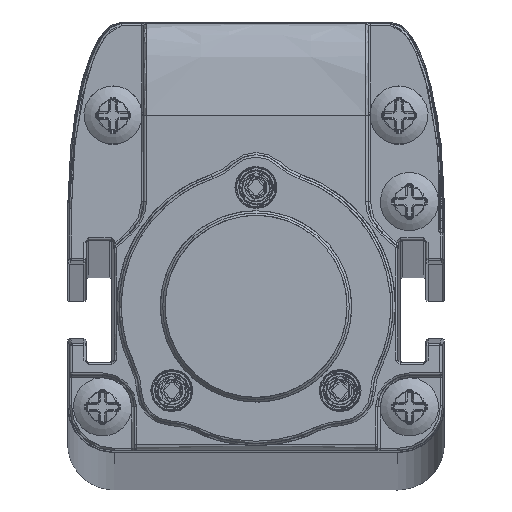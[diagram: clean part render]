
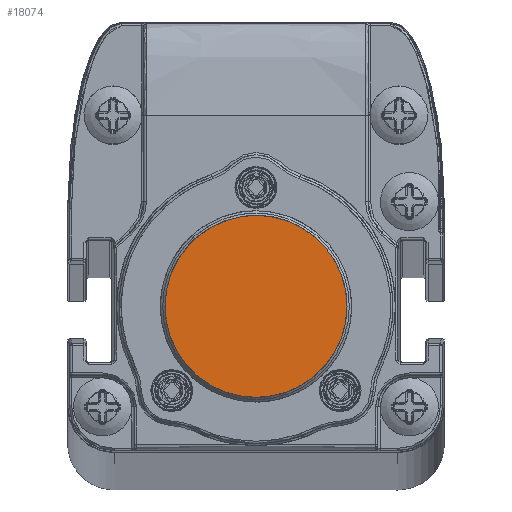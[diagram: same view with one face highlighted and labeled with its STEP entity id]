
A CAD part, top view. The second image highlights one B-rep face of the part: STEP entity #18074.
In plain terms, the highlighted planar face has unit normal (0, 0, 1).
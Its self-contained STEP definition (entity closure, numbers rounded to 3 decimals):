
#15250=B_SPLINE_CURVE_WITH_KNOTS('',3,(#63544,#63545,#63546,#63547,#63548,
#63549,#63550,#63551,#63552,#63553,#63554,#63555,#63556,#63557,#63558,#63559,
#63560,#63561,#63562,#63563,#63564,#63565,#63566,#63567,#63568,#63569,#63570,
#63571,#63572,#63573,#63574,#63575,#63576,#63577,#63578,#63579,#63580,#63581,
#63582,#63583,#63584,#63585,#63586,#63587,#63588,#63589,#63590,#63591,#63592,
#63593,#63594,#63595,#63596,#63597,#63598,#63599,#63600,#63601,#63602,#63603,
#63604,#63605,#63606,#63607,#63608,#63609,#63610,#63611,#63612,#63613,#63614,
#63615,#63616,#63617,#63618,#63619,#63620,#63621,#63622,#63623,#63624,#63625,
#63626,#63627,#63628,#63629,#63630,#63631,#63632,#63633,#63634,#63635,#63636,
#63637,#63638,#63639,#63640,#63641,#63642,#63643,#63644,#63645,#63646),
 .UNSPECIFIED.,.T.,.F.,(1,3,3,3,3,3,3,3,3,3,3,3,3,3,3,3,3,3,3,3,3,3,3,3,
3,3,3,3,3,3,3,3,3,3,3,3,1),(-0.029,0.,0.029,0.059,
0.088,0.118,0.147,0.176,
0.206,0.235,0.265,0.294,
0.324,0.353,0.382,0.412,
0.441,0.471,0.5,0.529,0.559,
0.588,0.618,0.647,0.676,
0.706,0.735,0.765,0.794,
0.824,0.853,0.882,0.912,
0.941,0.971,1.,1.029),.UNSPECIFIED.);
#18074=ADVANCED_FACE('',(#20077),#18972,.T.);
#18972=PLANE('',#43531);
#20077=FACE_OUTER_BOUND('',#21561,.T.);
#21561=EDGE_LOOP('',(#27910));
#27910=ORIENTED_EDGE('',*,*,#36889,.T.);
#31950=VERTEX_POINT('',#63647);
#36889=EDGE_CURVE('',#31950,#31950,#15250,.T.);
#43531=AXIS2_PLACEMENT_3D('',#63648,#47487,#47488);
#47487=DIRECTION('',(0.,0.,1.));
#47488=DIRECTION('',(1.,0.,0.));
#63544=CARTESIAN_POINT('',(7.8,0.,1883.34));
#63545=CARTESIAN_POINT('',(7.8,0.465,1883.34));
#63546=CARTESIAN_POINT('',(7.759,0.925,1883.34));
#63547=CARTESIAN_POINT('',(7.679,1.376,1883.34));
#63548=CARTESIAN_POINT('',(7.638,1.601,1883.34));
#63549=CARTESIAN_POINT('',(7.588,1.825,1883.34));
#63550=CARTESIAN_POINT('',(7.527,2.047,1883.34));
#63551=CARTESIAN_POINT('',(7.466,2.269,1883.34));
#63552=CARTESIAN_POINT('',(7.407,2.458,1883.34));
#63553=CARTESIAN_POINT('',(7.315,2.708,1883.34));
#63554=CARTESIAN_POINT('',(7.129,3.209,1883.34));
#63555=CARTESIAN_POINT('',(6.898,3.683,1883.34));
#63556=CARTESIAN_POINT('',(6.62,4.128,1883.34));
#63557=CARTESIAN_POINT('',(6.343,4.573,1883.34));
#63558=CARTESIAN_POINT('',(6.043,4.965,1883.34));
#63559=CARTESIAN_POINT('',(5.651,5.376,1883.34));
#63560=CARTESIAN_POINT('',(4.868,6.2,1883.34));
#63561=CARTESIAN_POINT('',(3.912,6.837,1883.34));
#63562=CARTESIAN_POINT('',(2.89,7.245,1883.34));
#63563=CARTESIAN_POINT('',(2.378,7.449,1883.34));
#63564=CARTESIAN_POINT('',(1.856,7.597,1883.34));
#63565=CARTESIAN_POINT('',(1.324,7.689,1883.34));
#63566=CARTESIAN_POINT('',(1.058,7.734,1883.34));
#63567=CARTESIAN_POINT('',(0.79,7.766,1883.34));
#63568=CARTESIAN_POINT('',(0.52,7.784,1883.34));
#63569=CARTESIAN_POINT('',(0.249,7.801,1883.34));
#63570=CARTESIAN_POINT('',(-0.055,7.804,1883.34));
#63571=CARTESIAN_POINT('',(-0.3,7.794,1883.34));
#63572=CARTESIAN_POINT('',(-0.79,7.775,1883.34));
#63573=CARTESIAN_POINT('',(-1.271,7.712,1883.34));
#63574=CARTESIAN_POINT('',(-1.742,7.604,1883.34));
#63575=CARTESIAN_POINT('',(-2.213,7.496,1883.34));
#63576=CARTESIAN_POINT('',(-2.713,7.327,1883.34));
#63577=CARTESIAN_POINT('',(-3.123,7.147,1883.34));
#63578=CARTESIAN_POINT('',(-3.534,6.968,1883.34));
#63579=CARTESIAN_POINT('',(-3.924,6.757,1883.34));
#63580=CARTESIAN_POINT('',(-4.293,6.513,1883.34));
#63581=CARTESIAN_POINT('',(-4.477,6.392,1883.34));
#63582=CARTESIAN_POINT('',(-4.656,6.262,1883.34));
#63583=CARTESIAN_POINT('',(-4.83,6.125,1883.34));
#63584=CARTESIAN_POINT('',(-5.004,5.987,1883.34));
#63585=CARTESIAN_POINT('',(-5.15,5.864,1883.34));
#63586=CARTESIAN_POINT('',(-5.337,5.688,1883.34));
#63587=CARTESIAN_POINT('',(-5.712,5.337,1883.34));
#63588=CARTESIAN_POINT('',(-6.047,4.956,1883.34));
#63589=CARTESIAN_POINT('',(-6.341,4.545,1883.34));
#63590=CARTESIAN_POINT('',(-6.635,4.134,1883.34));
#63591=CARTESIAN_POINT('',(-6.869,3.738,1883.34));
#63592=CARTESIAN_POINT('',(-7.102,3.226,1883.34));
#63593=CARTESIAN_POINT('',(-7.567,2.203,1883.34));
#63594=CARTESIAN_POINT('',(-7.8,1.124,1883.34));
#63595=CARTESIAN_POINT('',(-7.8,0.,1883.34));
#63596=CARTESIAN_POINT('',(-7.8,-0.562,1883.34));
#63597=CARTESIAN_POINT('',(-7.742,-1.113,1883.34));
#63598=CARTESIAN_POINT('',(-7.626,-1.651,1883.34));
#63599=CARTESIAN_POINT('',(-7.509,-2.189,1883.34));
#63600=CARTESIAN_POINT('',(-7.314,-2.758,1883.34));
#63601=CARTESIAN_POINT('',(-7.102,-3.226,1883.34));
#63602=CARTESIAN_POINT('',(-6.889,-3.694,1883.34));
#63603=CARTESIAN_POINT('',(-6.636,-4.134,1883.34));
#63604=CARTESIAN_POINT('',(-6.341,-4.544,1883.34));
#63605=CARTESIAN_POINT('',(-6.194,-4.75,1883.34));
#63606=CARTESIAN_POINT('',(-6.037,-4.947,1883.34));
#63607=CARTESIAN_POINT('',(-5.87,-5.138,1883.34));
#63608=CARTESIAN_POINT('',(-5.702,-5.329,1883.34));
#63609=CARTESIAN_POINT('',(-5.5,-5.535,1883.34));
#63610=CARTESIAN_POINT('',(-5.337,-5.688,1883.34));
#63611=CARTESIAN_POINT('',(-5.01,-5.995,1883.34));
#63612=CARTESIAN_POINT('',(-4.662,-6.27,1883.34));
#63613=CARTESIAN_POINT('',(-4.293,-6.513,1883.34));
#63614=CARTESIAN_POINT('',(-3.924,-6.756,1883.34));
#63615=CARTESIAN_POINT('',(-3.573,-6.951,1883.34));
#63616=CARTESIAN_POINT('',(-3.123,-7.147,1883.34));
#63617=CARTESIAN_POINT('',(-2.674,-7.344,1883.34));
#63618=CARTESIAN_POINT('',(-2.213,-7.496,1883.34));
#63619=CARTESIAN_POINT('',(-1.743,-7.604,1883.34));
#63620=CARTESIAN_POINT('',(-1.507,-7.658,1883.34));
#63621=CARTESIAN_POINT('',(-1.27,-7.701,1883.34));
#63622=CARTESIAN_POINT('',(-1.029,-7.732,1883.34));
#63623=CARTESIAN_POINT('',(-0.789,-7.764,1883.34));
#63624=CARTESIAN_POINT('',(-0.575,-7.784,1883.34));
#63625=CARTESIAN_POINT('',(-0.3,-7.794,1883.34));
#63626=CARTESIAN_POINT('',(0.801,-7.837,1883.34));
#63627=CARTESIAN_POINT('',(1.834,-7.666,1883.34));
#63628=CARTESIAN_POINT('',(2.89,-7.245,1883.34));
#63629=CARTESIAN_POINT('',(3.417,-7.035,1883.34));
#63630=CARTESIAN_POINT('',(3.912,-6.774,1883.34));
#63631=CARTESIAN_POINT('',(4.372,-6.462,1883.34));
#63632=CARTESIAN_POINT('',(4.833,-6.15,1883.34));
#63633=CARTESIAN_POINT('',(5.283,-5.763,1883.34));
#63634=CARTESIAN_POINT('',(5.651,-5.376,1883.34));
#63635=CARTESIAN_POINT('',(6.019,-4.989,1883.34));
#63636=CARTESIAN_POINT('',(6.342,-4.573,1883.34));
#63637=CARTESIAN_POINT('',(6.62,-4.128,1883.34));
#63638=CARTESIAN_POINT('',(6.759,-3.906,1883.34));
#63639=CARTESIAN_POINT('',(6.886,-3.676,1883.34));
#63640=CARTESIAN_POINT('',(7.002,-3.44,1883.34));
#63641=CARTESIAN_POINT('',(7.117,-3.203,1883.34));
#63642=CARTESIAN_POINT('',(7.234,-2.926,1883.34));
#63643=CARTESIAN_POINT('',(7.315,-2.708,1883.34));
#63644=CARTESIAN_POINT('',(7.638,-1.835,1883.34));
#63645=CARTESIAN_POINT('',(7.8,-0.933,1883.34));
#63646=CARTESIAN_POINT('',(7.8,0.,1883.34));
#63647=CARTESIAN_POINT('',(7.8,0.,1883.34));
#63648=CARTESIAN_POINT('',(-8.9,-8.81,1883.34));
